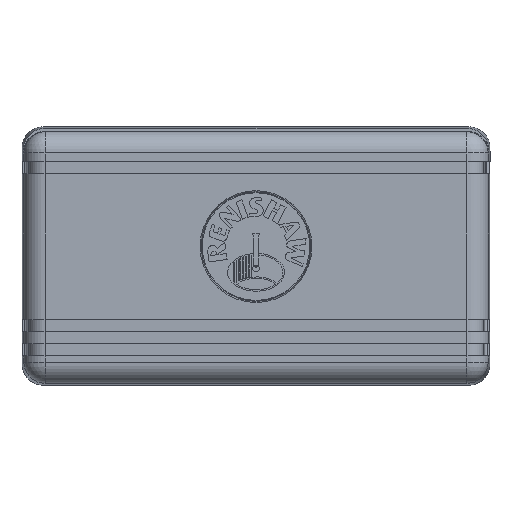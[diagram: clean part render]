
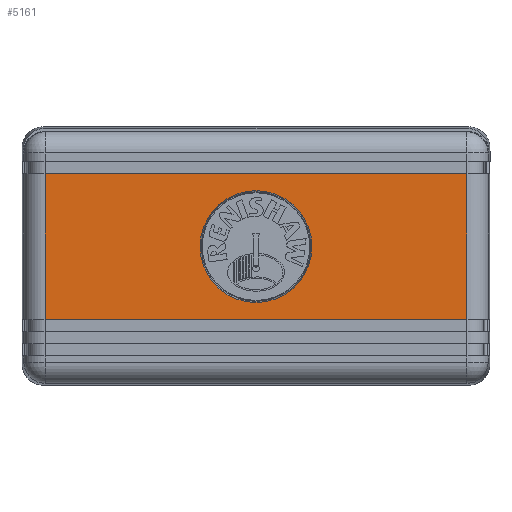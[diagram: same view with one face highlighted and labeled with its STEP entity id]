
A CAD part, left-side view. The second image highlights one B-rep face of the part: STEP entity #5161.
In plain terms, the highlighted planar face has unit normal (-1, 0, 0).
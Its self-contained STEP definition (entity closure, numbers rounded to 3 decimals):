
#962=CIRCLE('',#16306,9.2);
#1358=FACE_BOUND('',#6762,.T.);
#1359=FACE_BOUND('',#6763,.T.);
#1833=PLANE('',#16370);
#3069=LINE('',#25558,#4399);
#3083=LINE('',#25594,#4413);
#3162=LINE('',#25894,#4492);
#3163=LINE('',#25896,#4493);
#4399=VECTOR('',#19473,1.);
#4413=VECTOR('',#19511,1.);
#4492=VECTOR('',#19794,1.);
#4493=VECTOR('',#19797,1.);
#5161=ADVANCED_FACE('',(#1358,#1359),#1833,.T.);
#6762=EDGE_LOOP('',(#10734,#10735,#10736,#10737));
#6763=EDGE_LOOP('',(#10738));
#10734=ORIENTED_EDGE('',*,*,#14629,.F.);
#10735=ORIENTED_EDGE('',*,*,#14779,.T.);
#10736=ORIENTED_EDGE('',*,*,#14647,.T.);
#10737=ORIENTED_EDGE('',*,*,#14778,.T.);
#10738=ORIENTED_EDGE('',*,*,#14704,.T.);
#12545=VERTEX_POINT('',#25557);
#12546=VERTEX_POINT('',#25559);
#12555=VERTEX_POINT('',#25593);
#12556=VERTEX_POINT('',#25595);
#12589=VERTEX_POINT('',#25749);
#14629=EDGE_CURVE('',#12545,#12546,#3069,.T.);
#14647=EDGE_CURVE('',#12556,#12555,#3083,.T.);
#14704=EDGE_CURVE('',#12589,#12589,#962,.T.);
#14778=EDGE_CURVE('',#12555,#12546,#3162,.T.);
#14779=EDGE_CURVE('',#12545,#12556,#3163,.T.);
#16306=AXIS2_PLACEMENT_3D('',#25748,#19624,#19625);
#16370=AXIS2_PLACEMENT_3D('',#25898,#19800,#19801);
#19473=DIRECTION('',(0.,1.,0.));
#19511=DIRECTION('',(0.,1.,0.));
#19624=DIRECTION('',(1.,0.,0.));
#19625=DIRECTION('',(0.,0.,-1.));
#19794=DIRECTION('',(0.,0.,-1.));
#19797=DIRECTION('',(0.,0.,1.));
#19800=DIRECTION('',(-1.,0.,0.));
#19801=DIRECTION('',(0.,0.,1.));
#25557=CARTESIAN_POINT('',(-30.7,-14.598,-24.325));
#25558=CARTESIAN_POINT('',(-30.7,20.1,-24.325));
#25559=CARTESIAN_POINT('',(-30.7,54.798,-24.325));
#25593=CARTESIAN_POINT('',(-30.7,54.798,-0.325));
#25594=CARTESIAN_POINT('',(-30.7,20.1,-0.325));
#25595=CARTESIAN_POINT('',(-30.7,-14.598,-0.325));
#25748=CARTESIAN_POINT('',(-30.7,20.1,-12.325));
#25749=CARTESIAN_POINT('',(-30.7,20.1,-21.525));
#25894=CARTESIAN_POINT('',(-30.7,54.798,-35.125));
#25896=CARTESIAN_POINT('',(-30.7,-14.598,-35.125));
#25898=CARTESIAN_POINT('',(-30.7,20.1,-35.125));
